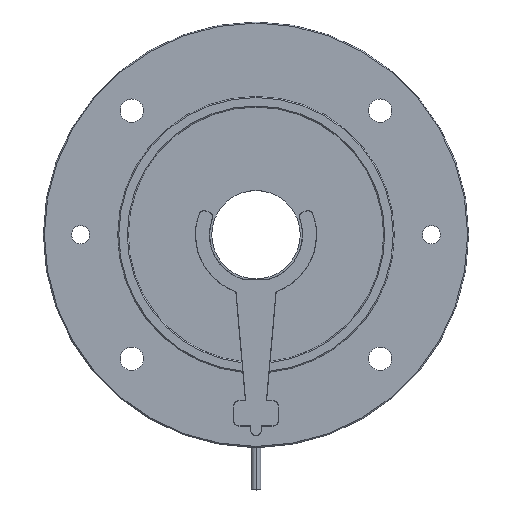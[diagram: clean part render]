
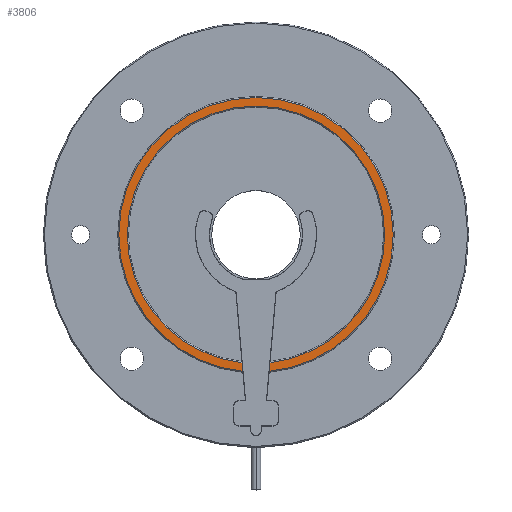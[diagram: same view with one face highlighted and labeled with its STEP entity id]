
A CAD part, top view. The second image highlights one B-rep face of the part: STEP entity #3806.
In plain terms, the highlighted planar face has unit normal (0, 0, 1).
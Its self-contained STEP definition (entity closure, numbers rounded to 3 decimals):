
#12 = ORIENTED_EDGE ( 'NONE', *, *, #4933, .T. ) ;
#49 = VERTEX_POINT ( 'NONE', #3651 ) ;
#76 = CIRCLE ( 'NONE', #2241, 60.5 ) ;
#170 = CIRCLE ( 'NONE', #3211, 64.5 ) ;
#200 = DIRECTION ( 'NONE',  ( 0., 0., -1. ) ) ;
#234 = VERTEX_POINT ( 'NONE', #966 ) ;
#495 = CARTESIAN_POINT ( 'NONE',  ( -6.573, -60.142, 0. ) ) ;
#655 = CARTESIAN_POINT ( 'NONE',  ( 6.573, -60.142, 0. ) ) ;
#934 = VERTEX_POINT ( 'NONE', #655 ) ;
#953 = LINE ( 'NONE', #3053, #5011 ) ;
#966 = CARTESIAN_POINT ( 'NONE',  ( -64.5, 0., 0. ) ) ;
#1117 = DIRECTION ( 'NONE',  ( -1., 0., 0. ) ) ;
#1191 = CARTESIAN_POINT ( 'NONE',  ( 17.022, 58.501, 0. ) ) ;
#1220 = DIRECTION ( 'NONE',  ( -0.088, -0.996, 0. ) ) ;
#1226 = CARTESIAN_POINT ( 'NONE',  ( 60.5, 0., 0. ) ) ;
#1253 = ORIENTED_EDGE ( 'NONE', *, *, #3382, .T. ) ;
#1407 = DIRECTION ( 'NONE',  ( 0., 0., -1. ) ) ;
#1444 = CARTESIAN_POINT ( 'NONE',  ( 0., 0., 0. ) ) ;
#1508 = VERTEX_POINT ( 'NONE', #495 ) ;
#1565 = CARTESIAN_POINT ( 'NONE',  ( 0., 0., 0. ) ) ;
#1606 = EDGE_CURVE ( 'NONE', #49, #4002, #2739, .T. ) ;
#1639 = ORIENTED_EDGE ( 'NONE', *, *, #4524, .T. ) ;
#1783 = ORIENTED_EDGE ( 'NONE', *, *, #2200, .T. ) ;
#1810 = DIRECTION ( 'NONE',  ( -1., 0., 0. ) ) ;
#1829 = CARTESIAN_POINT ( 'NONE',  ( 0., 60., 0. ) ) ;
#1853 = EDGE_CURVE ( 'NONE', #1508, #3511, #953, .T. ) ;
#1914 = CARTESIAN_POINT ( 'NONE',  ( -6.215, -64.2, 0. ) ) ;
#1943 = EDGE_LOOP ( 'NONE', ( #3842, #4451, #5355, #1639, #1783, #1253, #12, #2496 ) ) ;
#2200 = EDGE_CURVE ( 'NONE', #934, #3204, #5314, .T. ) ;
#2241 = AXIS2_PLACEMENT_3D ( 'NONE', #1565, #2752, #4478 ) ;
#2380 = DIRECTION ( 'NONE',  ( 0., 0., 1. ) ) ;
#2496 = ORIENTED_EDGE ( 'NONE', *, *, #2571, .T. ) ;
#2571 = EDGE_CURVE ( 'NONE', #234, #3511, #4153, .T. ) ;
#2600 = AXIS2_PLACEMENT_3D ( 'NONE', #3941, #3530, #3116 ) ;
#2645 = CARTESIAN_POINT ( 'NONE',  ( 0., 0., 0. ) ) ;
#2739 = CIRCLE ( 'NONE', #4053, 60.5 ) ;
#2752 = DIRECTION ( 'NONE',  ( 0., 0., -1. ) ) ;
#2872 = EDGE_CURVE ( 'NONE', #1508, #49, #76, .T. ) ;
#2941 = CARTESIAN_POINT ( 'NONE',  ( 6.215, -64.2, 0. ) ) ;
#3027 = AXIS2_PLACEMENT_3D ( 'NONE', #3486, #1407, #1810 ) ;
#3053 = CARTESIAN_POINT ( 'NONE',  ( -17.022, 58.501, 0. ) ) ;
#3059 = FACE_OUTER_BOUND ( 'NONE', #1943, .T. ) ;
#3116 = DIRECTION ( 'NONE',  ( -1., 0., 0. ) ) ;
#3181 = VECTOR ( 'NONE', #1220, 1000. ) ;
#3204 = VERTEX_POINT ( 'NONE', #2941 ) ;
#3211 = AXIS2_PLACEMENT_3D ( 'NONE', #2645, #5138, #3446 ) ;
#3285 = DIRECTION ( 'NONE',  ( -1., 0., 0. ) ) ;
#3382 = EDGE_CURVE ( 'NONE', #3204, #4370, #3827, .T. ) ;
#3446 = DIRECTION ( 'NONE',  ( -1., 0., 0. ) ) ;
#3486 = CARTESIAN_POINT ( 'NONE',  ( 0., 0., 0. ) ) ;
#3511 = VERTEX_POINT ( 'NONE', #1914 ) ;
#3530 = DIRECTION ( 'NONE',  ( 0., 0., 1. ) ) ;
#3632 = AXIS2_PLACEMENT_3D ( 'NONE', #1829, #200, #5185 ) ;
#3651 = CARTESIAN_POINT ( 'NONE',  ( -60.5, 0., 0. ) ) ;
#3806 = ADVANCED_FACE ( 'NONE', ( #3059 ), #4728, .F. ) ;
#3827 = CIRCLE ( 'NONE', #2600, 64.5 ) ;
#3842 = ORIENTED_EDGE ( 'NONE', *, *, #1853, .F. ) ;
#3941 = CARTESIAN_POINT ( 'NONE',  ( 0., 0., 0. ) ) ;
#4002 = VERTEX_POINT ( 'NONE', #1226 ) ;
#4033 = CARTESIAN_POINT ( 'NONE',  ( 64.5, 0., 0. ) ) ;
#4053 = AXIS2_PLACEMENT_3D ( 'NONE', #1444, #4366, #1117 ) ;
#4153 = CIRCLE ( 'NONE', #4772, 64.5 ) ;
#4303 = DIRECTION ( 'NONE',  ( 0.088, -0.996, 0. ) ) ;
#4366 = DIRECTION ( 'NONE',  ( 0., 0., -1. ) ) ;
#4370 = VERTEX_POINT ( 'NONE', #4033 ) ;
#4451 = ORIENTED_EDGE ( 'NONE', *, *, #2872, .T. ) ;
#4478 = DIRECTION ( 'NONE',  ( -1., 0., 0. ) ) ;
#4524 = EDGE_CURVE ( 'NONE', #4002, #934, #5382, .T. ) ;
#4728 = PLANE ( 'NONE',  #3632 ) ;
#4772 = AXIS2_PLACEMENT_3D ( 'NONE', #5356, #2380, #3285 ) ;
#4933 = EDGE_CURVE ( 'NONE', #4370, #234, #170, .T. ) ;
#5011 = VECTOR ( 'NONE', #4303, 1000. ) ;
#5138 = DIRECTION ( 'NONE',  ( 0., 0., 1. ) ) ;
#5185 = DIRECTION ( 'NONE',  ( -1., 0., 0. ) ) ;
#5314 = LINE ( 'NONE', #1191, #3181 ) ;
#5355 = ORIENTED_EDGE ( 'NONE', *, *, #1606, .T. ) ;
#5356 = CARTESIAN_POINT ( 'NONE',  ( 0., 0., 0. ) ) ;
#5382 = CIRCLE ( 'NONE', #3027, 60.5 ) ;
